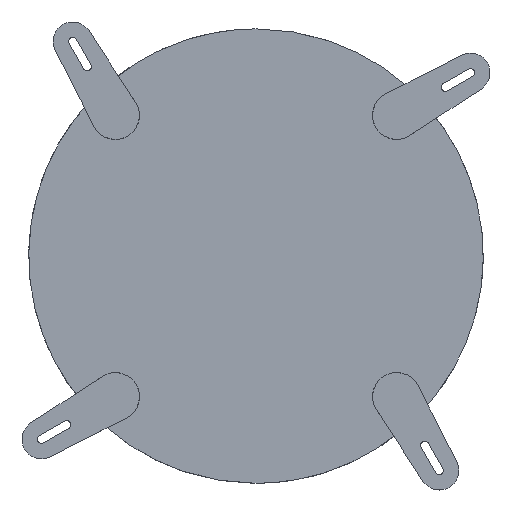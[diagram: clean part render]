
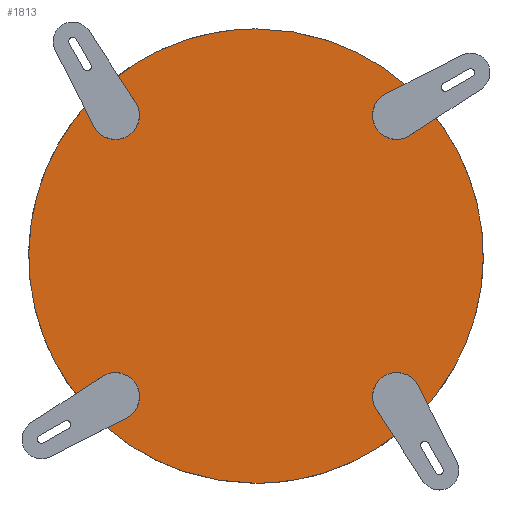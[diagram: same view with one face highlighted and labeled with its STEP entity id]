
A CAD part, top view. The second image highlights one B-rep face of the part: STEP entity #1813.
In plain terms, the highlighted planar face has unit normal (0, 0, 1).
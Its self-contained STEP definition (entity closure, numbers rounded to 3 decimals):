
#175=B_SPLINE_CURVE_WITH_KNOTS('',3,(#15178,#15179,#15180,#15181,#15182,
#15183,#15184,#15185,#15186,#15187,#15188,#15189,#15190,#15191,#15192,#15193,
#15194,#15195),.UNSPECIFIED.,.F.,.F.,(4,2,2,2,2,2,2,2,4),(0.,0.125,0.25,
0.375,0.5,0.625,0.75,0.875,1.),.UNSPECIFIED.);
#176=B_SPLINE_CURVE_WITH_KNOTS('',3,(#15198,#15199,#15200,#15201,#15202,
#15203,#15204,#15205,#15206,#15207,#15208,#15209,#15210,#15211,#15212,#15213,
#15214,#15215),.UNSPECIFIED.,.F.,.F.,(4,2,2,2,2,2,2,2,4),(0.,0.125,0.25,
0.375,0.5,0.625,0.75,0.875,1.),.UNSPECIFIED.);
#1813=ADVANCED_FACE('NONE',(#2613),#2204,.T.);
#2204=PLANE('',#10173);
#2613=FACE_OUTER_BOUND('',#3197,.T.);
#3197=EDGE_LOOP('',(#5182,#5183));
#5182=ORIENTED_EDGE('',*,*,#7686,.F.);
#5183=ORIENTED_EDGE('',*,*,#7687,.F.);
#6530=VERTEX_POINT('',#15196);
#6531=VERTEX_POINT('',#15197);
#7686=EDGE_CURVE('NONE',#6530,#6531,#175,.T.);
#7687=EDGE_CURVE('NONE',#6531,#6530,#176,.T.);
#10173=AXIS2_PLACEMENT_3D('',#15216,#12364,#12365);
#12364=DIRECTION('',(0.,0.,1.));
#12365=DIRECTION('',(0.,-1.,0.));
#15178=CARTESIAN_POINT('',(0.,188.5,0.));
#15179=CARTESIAN_POINT('',(24.675,188.5,0.));
#15180=CARTESIAN_POINT('',(49.339,183.594,0.));
#15181=CARTESIAN_POINT('',(94.932,164.709,0.));
#15182=CARTESIAN_POINT('',(115.842,150.737,0.));
#15183=CARTESIAN_POINT('',(150.737,115.842,0.));
#15184=CARTESIAN_POINT('',(164.709,94.932,0.));
#15185=CARTESIAN_POINT('',(183.594,49.339,0.));
#15186=CARTESIAN_POINT('',(188.5,24.675,0.));
#15187=CARTESIAN_POINT('',(188.5,-24.675,0.));
#15188=CARTESIAN_POINT('',(183.594,-49.339,0.));
#15189=CARTESIAN_POINT('',(164.709,-94.932,0.));
#15190=CARTESIAN_POINT('',(150.737,-115.842,0.));
#15191=CARTESIAN_POINT('',(115.842,-150.737,0.));
#15192=CARTESIAN_POINT('',(94.932,-164.709,0.));
#15193=CARTESIAN_POINT('',(49.339,-183.594,0.));
#15194=CARTESIAN_POINT('',(24.675,-188.5,0.));
#15195=CARTESIAN_POINT('',(0.,-188.5,0.));
#15196=CARTESIAN_POINT('',(0.,188.5,0.));
#15197=CARTESIAN_POINT('',(0.,-188.5,0.));
#15198=CARTESIAN_POINT('',(0.,-188.5,0.));
#15199=CARTESIAN_POINT('',(-24.675,-188.5,0.));
#15200=CARTESIAN_POINT('',(-49.339,-183.594,0.));
#15201=CARTESIAN_POINT('',(-94.932,-164.709,0.));
#15202=CARTESIAN_POINT('',(-115.842,-150.737,0.));
#15203=CARTESIAN_POINT('',(-150.737,-115.842,0.));
#15204=CARTESIAN_POINT('',(-164.709,-94.932,0.));
#15205=CARTESIAN_POINT('',(-183.594,-49.339,0.));
#15206=CARTESIAN_POINT('',(-188.5,-24.675,0.));
#15207=CARTESIAN_POINT('',(-188.5,24.675,0.));
#15208=CARTESIAN_POINT('',(-183.594,49.339,0.));
#15209=CARTESIAN_POINT('',(-164.709,94.932,0.));
#15210=CARTESIAN_POINT('',(-150.737,115.842,0.));
#15211=CARTESIAN_POINT('',(-115.842,150.737,0.));
#15212=CARTESIAN_POINT('',(-94.932,164.709,0.));
#15213=CARTESIAN_POINT('',(-49.339,183.594,0.));
#15214=CARTESIAN_POINT('',(-24.675,188.5,0.));
#15215=CARTESIAN_POINT('',(0.,188.5,0.));
#15216=CARTESIAN_POINT('',(0.,188.5,0.));
